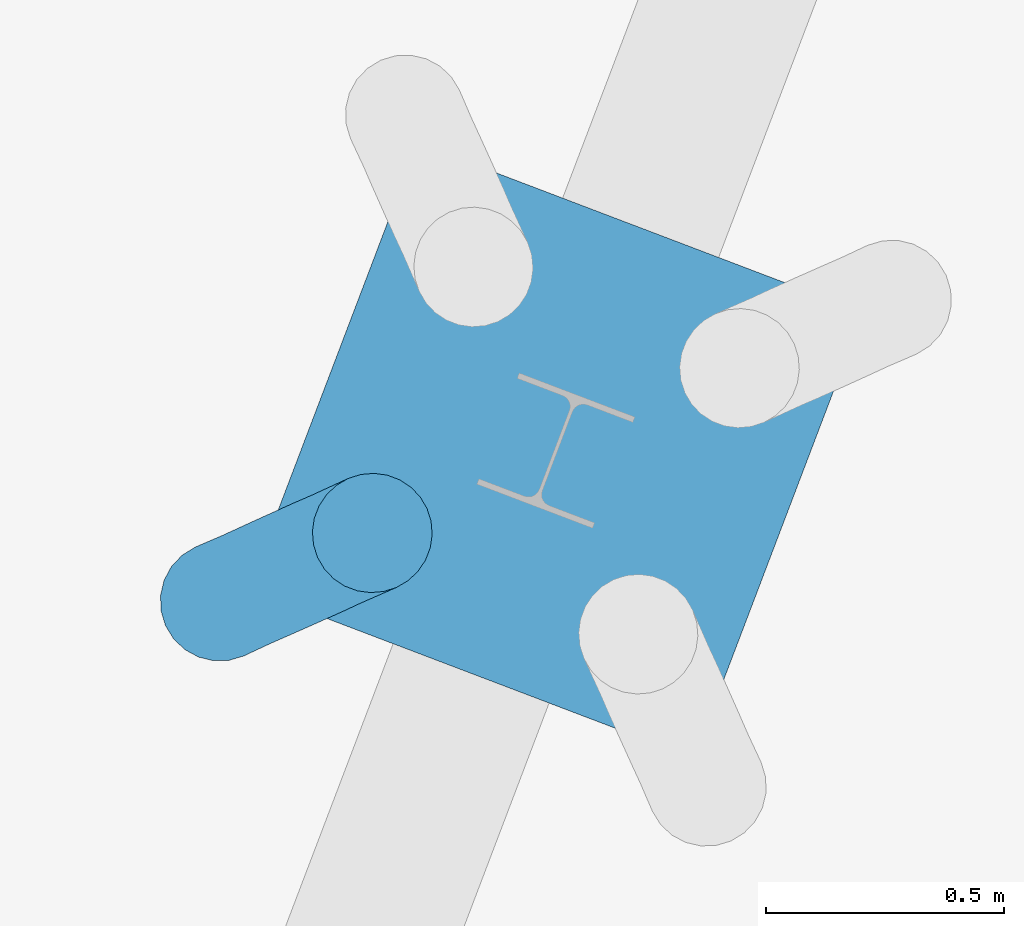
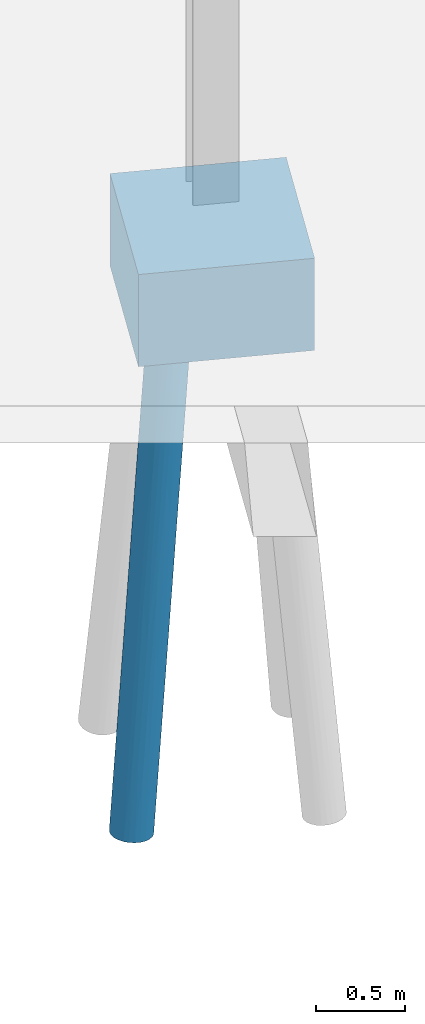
# One storey, part 19 of 46: 1 footing, 1 pile.
"""IFC2X3 building model written with IfcOpenShell, lengths in millimetres."""

from ifc_helpers import new_model, entity, si_unit, converted_unit, derived_unit, direction, frame, origin, origin_2d_with_axis, place, context, subcontext, project, spatial, rectangle, extrude, faceted_brep, source, transform, mapped, material, type_object, type_shapes, element, save


model = new_model("IFC2X3")

# Units and contexts
model_context = context("Model", 3, precision=0.01, world=origin(), true_north=direction((6.123233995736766e-17, 1.0)))
body_context = subcontext(model_context, "Body", "Model", "MODEL_VIEW")
ifc_project = project(units=[si_unit("LENGTHUNIT", "METRE", prefix="MILLI"), converted_unit("PLANEANGLEUNIT", "DEGREE", entity("IfcPlaneAngleMeasure", 0.017453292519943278), si_unit("PLANEANGLEUNIT", "RADIAN"), dimensions=[0, 0, 0, 0, 0, 0, 0]), si_unit("AREAUNIT", "SQUARE_METRE"), derived_unit("THERMALTRANSMITTANCEUNIT", [(si_unit("MASSUNIT", "GRAM", prefix="KILO"), 1), (si_unit("THERMODYNAMICTEMPERATUREUNIT", "KELVIN"), -1), (si_unit("TIMEUNIT", "SECOND"), -3)])], contexts=[model_context])

# Site, building, storey
site_placement = place(None, frame((-72937.88054949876, 11621.45624098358, 0.0), z_axis=(0.0, 0.0, 1.0), x_axis=(0.9346418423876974, -0.35559053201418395, 0.0)))
site = spatial("IfcSite", under=ifc_project, at=site_placement, Name="Default", CompositionType="ELEMENT")
building_placement = place(site_placement, origin())
building = spatial("IfcBuilding", under=site, at=building_placement, CompositionType="ELEMENT")
storey_placement = place(building_placement, origin())
storey = spatial("IfcBuildingStorey", under=building, at=storey_placement, Name="00 begane grond", CompositionType="ELEMENT", Elevation=0.0)

# Footing
ifc_material_1 = material(Name="beton_gewapend_ihw")
type_product_1 = type_object("IfcTypeProduct", Name="poer 1000x1000x800mm", material=ifc_material_1)
shared_shape_1 = source(origin(), body_context, "Body", "SweptSolid", [
    extrude(rectangle(XDim=999.999999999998, YDim=999.999999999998, at=origin_2d_with_axis()), frame((62300.0, 21880.0, -800.0), z_axis=(0.0, 0.0, 1.0), x_axis=(-1.0, 0.0, 0.0)), (0.0, 0.0, 1.0), 630.0000000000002),
])
type_shapes(type_product_1, [shared_shape_1])
footing_placement = place(storey_placement, frame((0.0, 0.0, -60.0)))
element("IfcFooting", 1, at=footing_placement, inside=storey, type_object=type_product_1, material=ifc_material_1, Name="16.13_Poer rechthoek", ObjectType="betonpoer rechthoekig", PredefinedType="PILE_CAP", context=body_context, shape_type="MappedRepresentation", body=[
    mapped(shared_shape_1, transform((0.0, 0.0, 0.0), scale=1.0)),
])

# Pile
ifc_material_2 = material(Name="beton_gewapend_prefab-element_c45/55")
type_product_2 = type_object("IfcTypeProduct", Name="Type 01", material=ifc_material_2)
shared_shape_2 = source(origin(), body_context, "Body", "Brep", [
    faceted_brep([(50.02983679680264, 41.219149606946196, -1478.3429510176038), (41.770052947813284, 0.0, -1615.992665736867), (-21.492869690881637, 34.07967924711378, -2142.478153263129), (-196.51418126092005, 41.35907440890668, -1560.459568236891), (-209.7685117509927, 0.0, -1615.993463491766), (-120.39371842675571, 27.815116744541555, -840.0), (-105.46135978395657, 105.60554685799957, -2414.744852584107), (-29.01608810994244, 89.9027707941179, -1907.5825387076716), (-88.8773638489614, 91.39060439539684, -2432.143714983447), (44.04069234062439, 66.4881713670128, -1422.150587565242), (100.55257203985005, 77.93622523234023, -840.0), (115.53639022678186, 54.235467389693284, -840.0), (-181.63351961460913, 47.83542906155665, -3540.4622999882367), (-228.8866429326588, 32.35238063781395, -4013.333582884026), (-241.29781855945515, 62.499999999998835, -4011.9545633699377), (124.838162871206, 27.815116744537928, -840.0), (127.99146025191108, 0.0, -840.0), (80.6380595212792, 97.7289353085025, -840.0), (-1.0422673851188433, 115.29700921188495, -1306.6345347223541), (56.79144948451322, 112.62110848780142, -840.0), (-82.66188090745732, 124.23733970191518, -1479.1096584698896), (-119.59016639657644, 124.77532272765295, -1868.4753366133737), (-148.0004270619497, 121.55050259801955, -1927.9224619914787), (-25.764066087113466, 121.86598902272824, -840.0), (2.2222222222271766, 125.0, -840.0), (35.238837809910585, 88.30507823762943, -1343.9943162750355), (30.208510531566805, 121.86598902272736, -840.0), (-38.42848163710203, 123.4640225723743, -1382.7576650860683), (-59.298226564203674, 117.91120533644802, -1769.4495348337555), (-121.64165871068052, 118.88184081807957, -2304.5646505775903), (-105.46067851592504, 124.17311504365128, -1939.1271630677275), (-181.54271840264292, 0.0, -3625.807607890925), (-224.65342205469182, 0.0, -4013.803940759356), (-186.42266103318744, 99.1691675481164, -3226.87509877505), (-111.16783038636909, 79.40373738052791, -2734.7208670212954), (-187.86059930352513, 76.09517863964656, -3448.7603995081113), (-294.2594631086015, 123.9306076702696, -3360.5895502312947), (-348.8888888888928, 125.0, -4000.0), (-381.04339378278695, 120.74072828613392, -3996.4272772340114), (-71.50265177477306, 37.61355729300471, -2582.985799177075), (-105.1394697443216, 22.11026756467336, -2920.330251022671), (-119.53291308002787, 47.835429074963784, -2981.5568411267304), (-160.26870491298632, 23.53094104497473, -3414.1045295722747), (-238.88036705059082, 115.48494156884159, -3443.09153660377), (-286.7711554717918, 108.25317547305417, -4006.901970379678), (-261.04114782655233, 88.38834764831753, -4009.7608601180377), (-316.7343839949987, 120.74072828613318, -4003.5727227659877), (-61.65923548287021, 74.64816535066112, -2322.8523974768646), (-84.00174733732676, 60.02171841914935, -2608.908596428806), (-151.97718420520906, 123.99260475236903, -2371.21148137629), (-173.2739820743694, 115.31995815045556, -2856.223431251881), (-123.54701580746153, 0.0, -840.0), (-295.99000769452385, 0.0, -2391.9869269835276), (-250.82857575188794, 22.617884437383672, -2004.2180489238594), (-107.44397040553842, 105.89787173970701, -1225.6035634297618), (-76.19361507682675, 97.72893530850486, -840.0), (-52.347005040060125, 112.6211084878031, -840.0), (-281.4812245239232, 123.93060767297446, -3541.076638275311), (-109.06614769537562, 117.57336724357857, -1457.2474766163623), (-111.0919457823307, 54.235467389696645, -840.0), (-15.85514051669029, 105.72630914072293, -1606.5585830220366), (-158.7756678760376, 105.96661342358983, -1688.5825591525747), (-146.68659472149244, 88.47759853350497, -1380.5978408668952), (-404.9818286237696, 23.95962394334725, -3393.901362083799), (-384.5571817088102, 0.0, -3189.0914931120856), (-348.5966640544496, 22.310072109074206, -2883.6216315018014), (-456.47995921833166, 62.500000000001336, -3988.0454366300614), (-468.89113484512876, 32.35238063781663, -3986.6664171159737), (-416.28748070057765, 47.83542904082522, -3560.8267027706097), (-337.6622645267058, 115.48494156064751, -3465.7921474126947), (-411.00662230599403, 108.25317547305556, -3993.0980296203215), (-204.57839676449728, 89.69967503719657, -1912.868459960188), (-241.9682357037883, 100.09571921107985, -2359.71747411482), (-255.69185443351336, 84.13968982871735, -2324.129304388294), (-96.10812759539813, 77.93622523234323, -840.0), (-377.92930595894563, 99.16916753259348, -3572.292603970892), (-436.73662995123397, 88.38834764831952, -3990.239139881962), (-206.9618348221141, 60.37792335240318, -1731.5361763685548), (-296.17437932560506, 43.53585544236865, -2464.5182361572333), (-358.4295495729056, 47.83542903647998, -3040.1053226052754), (-379.61635653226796, 76.09517861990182, -3378.5322028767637), (-430.0136077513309, 0.0, -3598.1993274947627), (-306.3551153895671, 77.61365432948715, -2729.901333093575), (-213.4617402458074, 118.14633713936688, -2411.4959163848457), (-159.2186646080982, 65.41382269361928, -1328.4086999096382), (-67.97340634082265, 109.92592992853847, -2010.6352011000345), (-179.43548008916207, 124.76102802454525, -2404.960456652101), (-13.219750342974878, 66.34050229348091, -1938.3332116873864), (-236.1740964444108, 124.51562049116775, -2886.015168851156), (-270.1086403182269, 119.49229851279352, -2958.6820679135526), (-268.3059733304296, 110.2317272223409, -2741.026078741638), (-320.7170568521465, 99.16916752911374, -3057.382361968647), (-473.12435572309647, 0.0, -3986.1960592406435), (-138.91569201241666, 99.37675608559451, -2796.855638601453), (-220.46267944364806, 123.93060767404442, -2991.909732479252), (-44.45135435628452, 0.0, -2391.9853314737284), (-247.1590829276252, 66.69543969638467, -2127.0964328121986), (-134.55238820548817, 0.0, -3202.8946361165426), (-89.50217198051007, 0.0, -2797.442690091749), (-340.273594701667, 0.0, -2790.5392100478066), (-303.09738986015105, 21.900839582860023, -2473.462328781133), (-246.59414544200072, 45.758522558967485, -2025.9931784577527), (-120.39371842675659, -27.815116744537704, -840.0), (-111.09194578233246, -54.23546738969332, -840.0), (-96.1081275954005, -77.93622523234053, -840.0), (-76.19361507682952, -97.72893530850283, -840.0), (-52.3470050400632, -112.62110848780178, -840.0), (-25.764066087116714, -121.86598902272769, -840.0), (2.22222222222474, -125.0, -840.0), (30.20851053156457, -121.86598902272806, -840.0), (56.7914494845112, -112.62110848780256, -840.0), (80.63805952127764, -97.72893530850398, -840.0), (100.55257203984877, -77.93622523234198, -840.0), (115.53639022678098, -54.23546738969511, -840.0), (124.83816287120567, -27.815116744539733, -840.0), (-241.96823566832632, -100.09571920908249, -2359.717473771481), (-268.30597321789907, -110.23172722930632, -2741.026077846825), (-213.46174017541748, -118.14633716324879, -2411.4959163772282), (-187.1422997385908, -67.5957584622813, -1592.1374826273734), (-196.5141812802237, -41.359074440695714, -1560.4595685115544), (-82.66188086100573, -124.2373397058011, -1479.1096583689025), (-13.219750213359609, -66.3405022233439, -1938.3332109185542), (35.23883807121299, -88.30507821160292, -1343.9943141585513), (-29.016087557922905, -89.90277069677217, -1907.5825346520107), (-109.06614766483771, -117.57336725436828, -1457.2474766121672), (-294.2594631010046, -123.93060767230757, -3360.5895503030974), (-337.66226453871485, -115.48494156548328, -3465.7921476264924), (-381.04339378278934, -120.74072828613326, -3996.4272772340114), (-320.717056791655, -99.16916754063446, -3057.382361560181), (-379.61635651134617, -76.09517863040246, -3378.53220276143), (-377.9293059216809, -99.16916753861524, -3572.292603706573), (-186.42266103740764, -99.16916753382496, -3226.875098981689), (-238.88036707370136, -115.48494156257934, -3443.0915369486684), (-286.77115547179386, -108.25317547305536, -4006.901970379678), (-228.88664293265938, -32.352380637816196, -4013.333582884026), (-181.63351956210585, -47.835429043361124, -3540.4622995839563), (-241.29781855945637, -62.50000000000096, -4011.9545633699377), (-107.44397039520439, -105.89787175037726, -1225.6035634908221), (-38.428481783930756, -123.46402262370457, -1382.7576634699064), (-468.89113484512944, -32.35238063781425, -3986.6664171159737), (-138.91569233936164, -99.37675620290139, -2796.855640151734), (-173.2739821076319, -115.31995832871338, -2856.223427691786), (-160.26870486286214, -23.530941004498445, -3414.104529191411), (-187.86059935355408, -76.09517862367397, -3448.760400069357), (-261.041147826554, -88.38834764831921, -4009.7608601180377), (-306.3551154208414, -77.61365434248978, -2729.901333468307), (-348.8888888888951, -125.0, -4000.0), (-416.2874806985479, -47.83542904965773, -3560.826702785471), (-456.47995921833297, -62.49999999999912, -3988.0454366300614), (-436.7366299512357, -88.38834764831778, -3990.239139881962), (-411.0066223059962, -108.25317547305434, -3993.0980296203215), (-71.50265159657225, -37.613557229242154, -2582.9857977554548), (-21.492869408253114, -34.07967918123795, -2142.4781508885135), (-84.00174724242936, -60.02171839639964, -2608.9085956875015), (-281.4812244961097, -123.9306076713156, -3541.076638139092), (-220.46267940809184, -123.93060767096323, -2991.9097323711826), (-158.7756678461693, -105.9666134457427, -1688.5825592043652), (-148.00042700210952, -121.5505026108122, -1927.922461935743), (-1.0422669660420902, -115.29700910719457, -1306.6345332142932), (-59.298225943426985, -117.91120535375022, -1769.4495288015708), (-15.85514048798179, -105.72630911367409, -1606.5585831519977), (-270.1086403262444, -119.4922985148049, -2958.682068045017), (50.02983688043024, -41.21914955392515, -1478.342950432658), (-146.6865947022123, -88.47759855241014, -1380.5978408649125), (-296.1743793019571, -43.53585546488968, -2464.5182360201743), (-348.59666404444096, -22.310072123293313, -2883.6216314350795), (-358.42954957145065, -47.83542905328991, -3040.1053226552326), (57.21126448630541, -65.80573689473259, -1307.4694469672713), (-67.97340649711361, -109.92593000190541, -2010.6352012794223), (-121.64165783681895, -118.88184074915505, -2304.564644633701), (-105.13946990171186, -22.110267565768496, -2920.330252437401), (-179.43547996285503, -124.76102802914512, -2404.960456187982), (-316.73438399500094, -120.7407282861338, -4003.5727227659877), (-119.53291301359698, -47.8354290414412, -2981.5568406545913), (-250.82857577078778, -22.61788446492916, -2004.218049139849), (-404.98182862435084, -23.95962395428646, -3393.901362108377), (-61.65923550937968, -74.64816548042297, -2322.852396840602), (-243.17628094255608, -45.971171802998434, -1995.9919190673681), (-105.46135971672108, -105.60554680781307, -2414.7448526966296), (-111.16783063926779, -79.40373735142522, -2734.7208695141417), (-119.59016630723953, -124.77532273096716, -1868.4753363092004), (-236.1740963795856, -124.51562049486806, -2886.0151686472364), (-204.57839665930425, -89.69967507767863, -1912.868459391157), (-247.15908295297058, -66.69543974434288, -2127.09643331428), (-88.87736442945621, -91.39060438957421, -2432.1437202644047), (-255.69185439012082, -84.13968979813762, -2324.1293037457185), (-105.46067843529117, -124.17311503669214, -1939.1271628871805), (-168.17815851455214, -123.85607816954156, -2526.387901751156), (-303.0973898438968, -21.90083960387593, -2473.4623286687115)], [[[0, 1, 2]], [[3, 4, 5]], [[6, 7, 8]], [[9, 10, 11]], [[12, 13, 14]], [[15, 16, 1]], [[17, 18, 19]], [[20, 21, 22]], [[23, 24, 20]], [[25, 17, 10]], [[26, 18, 27]], [[27, 20, 24]], [[28, 29, 30]], [[31, 32, 13]], [[33, 34, 35]], [[36, 37, 38]], [[39, 40, 41]], [[41, 42, 12]], [[43, 33, 44]], [[45, 33, 35]], [[46, 43, 44]], [[34, 47, 48]], [[49, 29, 50]], [[4, 51, 5]], [[30, 27, 28]], [[52, 4, 53]], [[54, 55, 56]], [[37, 36, 57]], [[56, 23, 58]], [[46, 37, 57]], [[59, 3, 5]], [[11, 15, 0]], [[3, 53, 4]], [[7, 60, 25]], [[44, 33, 45]], [[54, 61, 62]], [[63, 64, 65]], [[66, 67, 68]], [[36, 38, 69]], [[70, 69, 38]], [[71, 72, 73]], [[74, 55, 62]], [[75, 70, 76]], [[71, 77, 62]], [[78, 79, 65]], [[80, 75, 76]], [[63, 81, 64]], [[82, 80, 79]], [[66, 80, 76]], [[61, 83, 72]], [[59, 84, 3]], [[85, 6, 29]], [[25, 10, 9]], [[86, 21, 30]], [[35, 14, 45]], [[33, 43, 50]], [[54, 56, 58]], [[22, 58, 20]], [[87, 0, 2]], [[0, 15, 1]], [[83, 86, 88]], [[40, 42, 41]], [[89, 69, 90]], [[84, 59, 74]], [[72, 71, 61]], [[91, 80, 82]], [[79, 80, 68]], [[14, 35, 12]], [[92, 81, 67]], [[41, 35, 34]], [[48, 39, 41]], [[93, 8, 34]], [[50, 93, 33]], [[94, 43, 57]], [[36, 69, 89]], [[91, 69, 75]], [[48, 41, 34]], [[95, 2, 1]], [[91, 82, 72]], [[78, 96, 82]], [[90, 91, 72]], [[71, 62, 61]], [[13, 42, 31]], [[41, 12, 35]], [[46, 57, 43]], [[94, 57, 36]], [[97, 31, 42]], [[40, 97, 42]], [[12, 42, 13]], [[98, 97, 40, 95]], [[2, 95, 39]], [[55, 54, 62]], [[61, 54, 58]], [[83, 61, 22]], [[20, 58, 23]], [[58, 22, 61]], [[86, 83, 22]], [[88, 89, 83]], [[29, 49, 30]], [[88, 36, 89]], [[83, 89, 90]], [[40, 39, 95]], [[87, 2, 48]], [[39, 48, 2]], [[87, 48, 47]], [[87, 47, 7]], [[47, 34, 8]], [[9, 0, 87]], [[85, 60, 7]], [[17, 25, 60]], [[87, 7, 9]], [[47, 8, 7]], [[6, 8, 93]], [[50, 6, 93]], [[33, 93, 34]], [[6, 50, 29]], [[50, 43, 94]], [[60, 85, 28]], [[49, 86, 30]], [[60, 28, 18]], [[28, 27, 18]], [[26, 27, 24]], [[20, 27, 21]], [[60, 18, 17]], [[26, 19, 18]], [[84, 62, 77]], [[82, 96, 73]], [[83, 90, 72]], [[91, 90, 69]], [[88, 94, 36]], [[94, 88, 49]], [[66, 68, 80]], [[68, 67, 63]], [[63, 65, 79]], [[81, 63, 67]], [[68, 63, 79]], [[78, 82, 79]], [[65, 99, 100]], [[53, 101, 78]], [[78, 65, 100]], [[70, 75, 69]], [[91, 75, 80]], [[71, 73, 96]], [[73, 72, 82]], [[28, 85, 29]], [[6, 85, 7]], [[52, 53, 100]], [[96, 78, 101]], [[3, 84, 77]], [[62, 84, 74]], [[22, 21, 86]], [[30, 21, 27]], [[0, 9, 11]], [[25, 9, 7]], [[86, 49, 88]], [[94, 49, 50]], [[78, 100, 53]], [[65, 64, 99]], [[52, 100, 99]], [[96, 101, 77]], [[101, 53, 3]], [[3, 77, 101]], [[96, 77, 71]], [[56, 55, 74, 59, 5, 51, 102, 103, 104, 105, 106, 107, 108, 109, 110, 111, 112, 113, 114, 16, 15, 11, 10, 17, 19, 26, 24, 23]], [[4, 102, 51]], [[115, 116, 117]], [[104, 103, 118]], [[103, 102, 119]], [[108, 107, 120]], [[121, 122, 123]], [[107, 124, 120]], [[125, 126, 127]], [[128, 129, 130]], [[131, 132, 133]], [[134, 135, 136]], [[106, 105, 137]], [[109, 108, 138]], [[81, 92, 139]], [[131, 140, 141]], [[31, 97, 142]], [[143, 131, 144]], [[145, 129, 128]], [[125, 127, 146]], [[147, 139, 148]], [[130, 149, 150]], [[151, 152, 153]], [[125, 154, 155]], [[156, 157, 124]], [[158, 159, 160]], [[119, 102, 4]], [[110, 109, 158]], [[126, 125, 161]], [[162, 114, 113]], [[111, 158, 160]], [[163, 137, 105]], [[164, 165, 166]], [[122, 112, 111]], [[1, 16, 114]], [[162, 113, 167]], [[122, 121, 167]], [[168, 159, 169]], [[142, 97, 170]], [[171, 157, 117]], [[146, 172, 154]], [[104, 118, 163]], [[160, 159, 168]], [[104, 163, 105]], [[131, 133, 144]], [[115, 145, 128]], [[143, 144, 136]], [[152, 162, 121]], [[148, 149, 129]], [[151, 153, 173]], [[4, 174, 119]], [[166, 175, 147]], [[176, 121, 123]], [[177, 174, 164]], [[178, 169, 141]], [[132, 172, 133]], [[173, 179, 143]], [[180, 157, 171]], [[137, 156, 124]], [[162, 1, 114]], [[95, 1, 152]], [[126, 150, 127]], [[32, 31, 134]], [[161, 181, 117]], [[115, 156, 182]], [[177, 183, 118]], [[148, 129, 147]], [[145, 164, 166]], [[172, 132, 154]], [[165, 175, 166]], [[178, 141, 140]], [[131, 143, 179]], [[173, 143, 135]], [[140, 184, 178]], [[121, 176, 153]], [[150, 126, 130]], [[117, 116, 161]], [[162, 152, 1]], [[151, 170, 95]], [[129, 145, 166]], [[182, 156, 163]], [[182, 183, 185]], [[156, 115, 117]], [[136, 135, 143]], [[135, 134, 142]], [[146, 154, 125]], [[155, 154, 132]], [[142, 170, 173]], [[31, 142, 134]], [[135, 142, 173]], [[173, 170, 151]], [[98, 95, 170, 97]], [[124, 107, 106]], [[156, 137, 163]], [[106, 137, 124]], [[120, 124, 157]], [[120, 157, 180]], [[117, 157, 156]], [[169, 186, 187]], [[125, 181, 161]], [[128, 126, 116]], [[171, 117, 181]], [[153, 179, 173]], [[152, 151, 95]], [[179, 153, 176]], [[121, 153, 152]], [[176, 184, 179]], [[123, 168, 178]], [[184, 176, 123]], [[122, 111, 160]], [[112, 167, 113]], [[123, 122, 160]], [[131, 179, 140]], [[178, 184, 123]], [[184, 140, 179]], [[132, 131, 141]], [[141, 155, 132]], [[155, 187, 181]], [[155, 141, 187]], [[159, 186, 169]], [[186, 159, 138]], [[138, 158, 109]], [[186, 138, 180]], [[120, 138, 108]], [[159, 158, 138]], [[110, 158, 111]], [[115, 182, 185]], [[183, 182, 118]], [[161, 116, 126]], [[128, 116, 115]], [[171, 181, 187]], [[181, 125, 155]], [[139, 175, 81]], [[166, 147, 129]], [[64, 81, 175]], [[165, 64, 175]], [[147, 175, 139]], [[99, 64, 165]], [[145, 183, 164]], [[164, 188, 165]], [[4, 52, 174]], [[149, 130, 129]], [[128, 130, 126]], [[185, 145, 115]], [[145, 185, 183]], [[160, 168, 123]], [[178, 168, 169]], [[119, 174, 177]], [[164, 174, 188]], [[119, 118, 103]], [[163, 118, 182]], [[120, 180, 138]], [[186, 180, 171]], [[162, 167, 121]], [[122, 167, 112]], [[171, 187, 186]], [[169, 187, 141]], [[165, 188, 99]], [[52, 99, 188]], [[52, 188, 174]], [[119, 177, 118]], [[183, 177, 164]], [[127, 150, 149, 148, 139, 92, 67, 66, 76, 70, 38, 37, 46, 44, 45, 14, 13, 32, 134, 136, 144, 133, 172, 146]]]),
])
type_shapes(type_product_2, [shared_shape_2])
pile_placement = place(storey_placement, frame((62000.0, 21580.0, 0.0), z_axis=(0.0, 0.0, 1.0), x_axis=(0.7071067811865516, 0.7071067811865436, 0.0)))
element("IfcPile", 2, at=pile_placement, inside=storey, type_object=type_product_2, material=ifc_material_2, Name="17.21_Prefab funderingspaal rond", ObjectType="prefab paal rond", PredefinedType="NOTDEFINED", context=body_context, shape_type="MappedRepresentation", body=[
    mapped(shared_shape_2, transform((0.0, 0.0, 0.0), scale=1.0)),
])

save(model, "model.ifc")
